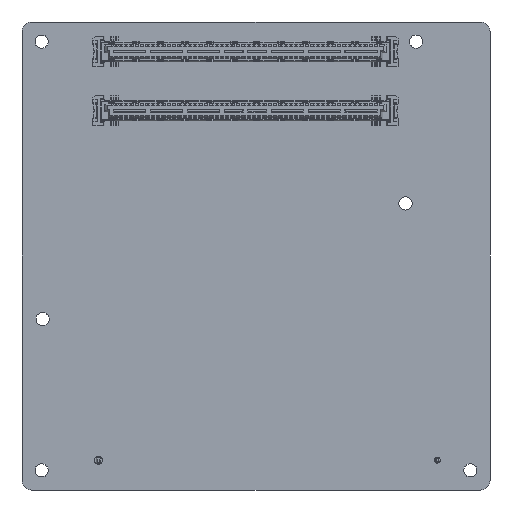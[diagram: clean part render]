
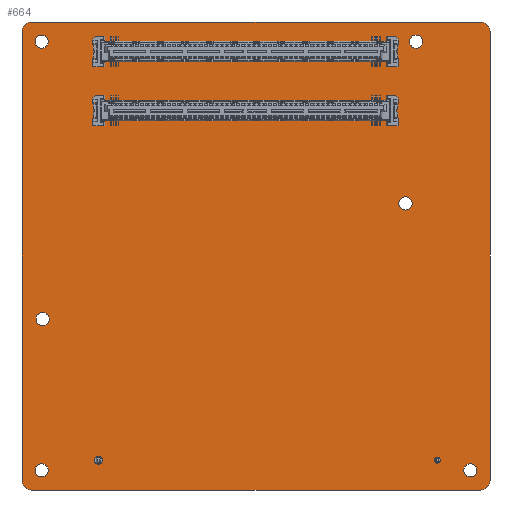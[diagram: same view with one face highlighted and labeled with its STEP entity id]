
A CAD part, front view. The second image highlights one B-rep face of the part: STEP entity #664.
In plain terms, the highlighted planar face has unit normal (0, -1, 0).
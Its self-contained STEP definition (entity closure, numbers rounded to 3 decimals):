
#1=CARTESIAN_POINT('',(-93.,0.,-2.));
#2=DIRECTION('',(0.,1.,0.));
#3=DIRECTION('',(-1.,0.,0.));
#4=AXIS2_PLACEMENT_3D('',#1,#2,#3);
#6=CARTESIAN_POINT('',(-2.,0.,-2.));
#7=DIRECTION('',(0.,1.,0.));
#8=DIRECTION('',(0.,0.,1.));
#9=AXIS2_PLACEMENT_3D('',#6,#7,#8);
#11=CARTESIAN_POINT('',(-2.,0.,-93.));
#12=DIRECTION('',(0.,1.,0.));
#13=DIRECTION('',(1.,0.,0.));
#14=AXIS2_PLACEMENT_3D('',#11,#12,#13);
#16=CARTESIAN_POINT('',(-93.,0.,-93.));
#17=DIRECTION('',(0.,1.,0.));
#18=DIRECTION('',(0.,0.,-1.));
#19=AXIS2_PLACEMENT_3D('',#16,#17,#18);
#21=CARTESIAN_POINT('',(-91.,0.,-91.));
#22=DIRECTION('',(0.,-1.,0.));
#23=DIRECTION('',(1.,0.,0.));
#24=AXIS2_PLACEMENT_3D('',#21,#22,#23);
#26=CARTESIAN_POINT('',(-91.,0.,-91.));
#27=DIRECTION('',(0.,-1.,0.));
#28=DIRECTION('',(-1.,0.,0.));
#29=AXIS2_PLACEMENT_3D('',#26,#27,#28);
#31=CARTESIAN_POINT('',(-4.,0.,-91.));
#32=DIRECTION('',(0.,-1.,0.));
#33=DIRECTION('',(1.,0.,0.));
#34=AXIS2_PLACEMENT_3D('',#31,#32,#33);
#36=CARTESIAN_POINT('',(-4.,0.,-91.));
#37=DIRECTION('',(0.,-1.,0.));
#38=DIRECTION('',(-1.,0.,0.));
#39=AXIS2_PLACEMENT_3D('',#36,#37,#38);
#41=CARTESIAN_POINT('',(-15.,0.,-4.));
#42=DIRECTION('',(0.,-1.,0.));
#43=DIRECTION('',(1.,0.,0.));
#44=AXIS2_PLACEMENT_3D('',#41,#42,#43);
#46=CARTESIAN_POINT('',(-15.,0.,-4.));
#47=DIRECTION('',(0.,-1.,0.));
#48=DIRECTION('',(-1.,0.,0.));
#49=AXIS2_PLACEMENT_3D('',#46,#47,#48);
#51=CARTESIAN_POINT('',(-91.,0.,-4.));
#52=DIRECTION('',(0.,-1.,0.));
#53=DIRECTION('',(1.,0.,0.));
#54=AXIS2_PLACEMENT_3D('',#51,#52,#53);
#56=CARTESIAN_POINT('',(-91.,0.,-4.));
#57=DIRECTION('',(0.,-1.,0.));
#58=DIRECTION('',(-1.,0.,0.));
#59=AXIS2_PLACEMENT_3D('',#56,#57,#58);
#61=CARTESIAN_POINT('',(-78.5,0.,-6.));
#62=DIRECTION('',(0.,-1.,0.));
#63=DIRECTION('',(-1.,0.,0.));
#64=AXIS2_PLACEMENT_3D('',#61,#62,#63);
#66=CARTESIAN_POINT('',(-78.5,0.,-6.));
#67=DIRECTION('',(0.,-1.,0.));
#68=DIRECTION('',(1.,0.,0.));
#69=AXIS2_PLACEMENT_3D('',#66,#67,#68);
#71=CARTESIAN_POINT('',(-20.8,0.,-6.));
#72=DIRECTION('',(0.,-1.,0.));
#73=DIRECTION('',(-1.,0.,0.));
#74=AXIS2_PLACEMENT_3D('',#71,#72,#73);
#76=CARTESIAN_POINT('',(-20.8,0.,-6.));
#77=DIRECTION('',(0.,-1.,0.));
#78=DIRECTION('',(1.,0.,0.));
#79=AXIS2_PLACEMENT_3D('',#76,#77,#78);
#81=CARTESIAN_POINT('',(-78.5,0.,-18.));
#82=DIRECTION('',(0.,-1.,0.));
#83=DIRECTION('',(-1.,0.,0.));
#84=AXIS2_PLACEMENT_3D('',#81,#82,#83);
#86=CARTESIAN_POINT('',(-78.5,0.,-18.));
#87=DIRECTION('',(0.,-1.,0.));
#88=DIRECTION('',(1.,0.,0.));
#89=AXIS2_PLACEMENT_3D('',#86,#87,#88);
#91=CARTESIAN_POINT('',(-20.8,0.,-18.));
#92=DIRECTION('',(0.,-1.,0.));
#93=DIRECTION('',(-1.,0.,0.));
#94=AXIS2_PLACEMENT_3D('',#91,#92,#93);
#96=CARTESIAN_POINT('',(-20.8,0.,-18.));
#97=DIRECTION('',(0.,-1.,0.));
#98=DIRECTION('',(1.,0.,0.));
#99=AXIS2_PLACEMENT_3D('',#96,#97,#98);
#101=CARTESIAN_POINT('',(-90.8,0.,-60.325));
#102=DIRECTION('',(0.,-1.,0.));
#103=DIRECTION('',(1.,0.,0.));
#104=AXIS2_PLACEMENT_3D('',#101,#102,#103);
#106=CARTESIAN_POINT('',(-90.8,0.,-60.325));
#107=DIRECTION('',(0.,-1.,0.));
#108=DIRECTION('',(-1.,0.,0.));
#109=AXIS2_PLACEMENT_3D('',#106,#107,#108);
#111=CARTESIAN_POINT('',(-17.144,0.,-36.829));
#112=DIRECTION('',(0.,-1.,0.));
#113=DIRECTION('',(-1.,0.,0.));
#114=AXIS2_PLACEMENT_3D('',#111,#112,#113);
#116=CARTESIAN_POINT('',(-17.144,0.,-36.829));
#117=DIRECTION('',(0.,-1.,0.));
#118=DIRECTION('',(1.,0.,0.));
#119=AXIS2_PLACEMENT_3D('',#116,#117,#118);
#121=CARTESIAN_POINT('',(-79.485,0.,-88.935));
#122=DIRECTION('',(0.,-1.,0.));
#123=DIRECTION('',(-1.,0.,0.));
#124=AXIS2_PLACEMENT_3D('',#121,#122,#123);
#126=CARTESIAN_POINT('',(-79.485,0.,-88.935));
#127=DIRECTION('',(0.,-1.,0.));
#128=DIRECTION('',(1.,0.,0.));
#129=AXIS2_PLACEMENT_3D('',#126,#127,#128);
#131=CARTESIAN_POINT('',(-10.685,0.,-88.935));
#132=DIRECTION('',(0.,-1.,0.));
#133=DIRECTION('',(-1.,0.,0.));
#134=AXIS2_PLACEMENT_3D('',#131,#132,#133);
#136=CARTESIAN_POINT('',(-10.685,0.,-88.935));
#137=DIRECTION('',(0.,-1.,0.));
#138=DIRECTION('',(1.,0.,0.));
#139=AXIS2_PLACEMENT_3D('',#136,#137,#138);
#149=DIRECTION('',(0.,0.,-1.));
#150=VECTOR('',#149,91.);
#151=CARTESIAN_POINT('',(-95.,0.,-2.));
#152=LINE('',#151,#150);
#161=DIRECTION('',(1.,0.,0.));
#162=VECTOR('',#161,91.);
#163=CARTESIAN_POINT('',(-93.,0.,-95.));
#164=LINE('',#163,#162);
#173=DIRECTION('',(0.,0.,1.));
#174=VECTOR('',#173,91.);
#175=CARTESIAN_POINT('',(0.,0.,-93.));
#176=LINE('',#175,#174);
#185=DIRECTION('',(-1.,0.,0.));
#186=VECTOR('',#185,91.);
#187=CARTESIAN_POINT('',(-2.,0.,0.));
#188=LINE('',#187,#186);
#441=CARTESIAN_POINT('',(-95.,0.,-2.));
#442=CARTESIAN_POINT('',(-93.,0.,0.));
#443=VERTEX_POINT('',#441);
#444=VERTEX_POINT('',#442);
#445=CARTESIAN_POINT('',(-2.,0.,0.));
#446=VERTEX_POINT('',#445);
#447=CARTESIAN_POINT('',(0.,0.,-2.));
#448=VERTEX_POINT('',#447);
#449=CARTESIAN_POINT('',(0.,0.,-93.));
#450=VERTEX_POINT('',#449);
#451=CARTESIAN_POINT('',(-2.,0.,-95.));
#452=VERTEX_POINT('',#451);
#453=CARTESIAN_POINT('',(-93.,0.,-95.));
#454=VERTEX_POINT('',#453);
#455=CARTESIAN_POINT('',(-95.,0.,-93.));
#456=VERTEX_POINT('',#455);
#457=CARTESIAN_POINT('',(-89.65,0.,-91.));
#458=CARTESIAN_POINT('',(-92.35,0.,-91.));
#459=VERTEX_POINT('',#457);
#460=VERTEX_POINT('',#458);
#461=CARTESIAN_POINT('',(-2.65,0.,-91.));
#462=CARTESIAN_POINT('',(-5.35,0.,-91.));
#463=VERTEX_POINT('',#461);
#464=VERTEX_POINT('',#462);
#465=CARTESIAN_POINT('',(-13.65,0.,-4.));
#466=CARTESIAN_POINT('',(-16.35,0.,-4.));
#467=VERTEX_POINT('',#465);
#468=VERTEX_POINT('',#466);
#469=CARTESIAN_POINT('',(-89.65,0.,-4.));
#470=CARTESIAN_POINT('',(-92.35,0.,-4.));
#471=VERTEX_POINT('',#469);
#472=VERTEX_POINT('',#470);
#473=CARTESIAN_POINT('',(-78.95,0.,-6.));
#474=CARTESIAN_POINT('',(-78.05,0.,-6.));
#475=VERTEX_POINT('',#473);
#476=VERTEX_POINT('',#474);
#477=CARTESIAN_POINT('',(-21.6,0.,-6.));
#478=CARTESIAN_POINT('',(-20.,0.,-6.));
#479=VERTEX_POINT('',#477);
#480=VERTEX_POINT('',#478);
#481=CARTESIAN_POINT('',(-78.95,0.,-18.));
#482=CARTESIAN_POINT('',(-78.05,0.,-18.));
#483=VERTEX_POINT('',#481);
#484=VERTEX_POINT('',#482);
#485=CARTESIAN_POINT('',(-21.6,0.,-18.));
#486=CARTESIAN_POINT('',(-20.,0.,-18.));
#487=VERTEX_POINT('',#485);
#488=VERTEX_POINT('',#486);
#489=CARTESIAN_POINT('',(-89.45,0.,-60.325));
#490=CARTESIAN_POINT('',(-92.15,0.,-60.325));
#491=VERTEX_POINT('',#489);
#492=VERTEX_POINT('',#490);
#493=CARTESIAN_POINT('',(-18.494,0.,-36.829));
#494=CARTESIAN_POINT('',(-15.794,0.,-36.829));
#495=VERTEX_POINT('',#493);
#496=VERTEX_POINT('',#494);
#497=CARTESIAN_POINT('',(-80.31,0.,-88.935));
#498=CARTESIAN_POINT('',(-78.659,0.,-88.935));
#499=VERTEX_POINT('',#497);
#500=VERTEX_POINT('',#498);
#501=CARTESIAN_POINT('',(-11.282,0.,-88.935));
#502=CARTESIAN_POINT('',(-10.088,0.,-88.935));
#503=VERTEX_POINT('',#501);
#504=VERTEX_POINT('',#502);
#569=CARTESIAN_POINT('',(0.,0.,0.));
#570=DIRECTION('',(0.,1.,0.));
#571=DIRECTION('',(1.,0.,0.));
#572=AXIS2_PLACEMENT_3D('',#569,#570,#571);
#573=PLANE('',#572);
#575=ORIENTED_EDGE('',*,*,#574,.T.);
#577=ORIENTED_EDGE('',*,*,#576,.F.);
#579=ORIENTED_EDGE('',*,*,#578,.T.);
#581=ORIENTED_EDGE('',*,*,#580,.F.);
#583=ORIENTED_EDGE('',*,*,#582,.T.);
#585=ORIENTED_EDGE('',*,*,#584,.F.);
#587=ORIENTED_EDGE('',*,*,#586,.T.);
#589=ORIENTED_EDGE('',*,*,#588,.F.);
#590=EDGE_LOOP('',(#575,#577,#579,#581,#583,#585,#587,#589));
#591=FACE_OUTER_BOUND('',#590,.F.);
#593=ORIENTED_EDGE('',*,*,#592,.T.);
#595=ORIENTED_EDGE('',*,*,#594,.T.);
#596=EDGE_LOOP('',(#593,#595));
#597=FACE_BOUND('',#596,.F.);
#599=ORIENTED_EDGE('',*,*,#598,.T.);
#601=ORIENTED_EDGE('',*,*,#600,.T.);
#602=EDGE_LOOP('',(#599,#601));
#603=FACE_BOUND('',#602,.F.);
#605=ORIENTED_EDGE('',*,*,#604,.T.);
#607=ORIENTED_EDGE('',*,*,#606,.T.);
#608=EDGE_LOOP('',(#605,#607));
#609=FACE_BOUND('',#608,.F.);
#611=ORIENTED_EDGE('',*,*,#610,.T.);
#613=ORIENTED_EDGE('',*,*,#612,.T.);
#614=EDGE_LOOP('',(#611,#613));
#615=FACE_BOUND('',#614,.F.);
#617=ORIENTED_EDGE('',*,*,#616,.T.);
#619=ORIENTED_EDGE('',*,*,#618,.T.);
#620=EDGE_LOOP('',(#617,#619));
#621=FACE_BOUND('',#620,.F.);
#623=ORIENTED_EDGE('',*,*,#622,.T.);
#625=ORIENTED_EDGE('',*,*,#624,.T.);
#626=EDGE_LOOP('',(#623,#625));
#627=FACE_BOUND('',#626,.F.);
#629=ORIENTED_EDGE('',*,*,#628,.T.);
#631=ORIENTED_EDGE('',*,*,#630,.T.);
#632=EDGE_LOOP('',(#629,#631));
#633=FACE_BOUND('',#632,.F.);
#635=ORIENTED_EDGE('',*,*,#634,.T.);
#637=ORIENTED_EDGE('',*,*,#636,.T.);
#638=EDGE_LOOP('',(#635,#637));
#639=FACE_BOUND('',#638,.F.);
#641=ORIENTED_EDGE('',*,*,#640,.T.);
#643=ORIENTED_EDGE('',*,*,#642,.T.);
#644=EDGE_LOOP('',(#641,#643));
#645=FACE_BOUND('',#644,.F.);
#647=ORIENTED_EDGE('',*,*,#646,.T.);
#649=ORIENTED_EDGE('',*,*,#648,.T.);
#650=EDGE_LOOP('',(#647,#649));
#651=FACE_BOUND('',#650,.F.);
#653=ORIENTED_EDGE('',*,*,#652,.T.);
#655=ORIENTED_EDGE('',*,*,#654,.T.);
#656=EDGE_LOOP('',(#653,#655));
#657=FACE_BOUND('',#656,.F.);
#659=ORIENTED_EDGE('',*,*,#658,.T.);
#661=ORIENTED_EDGE('',*,*,#660,.T.);
#662=EDGE_LOOP('',(#659,#661));
#663=FACE_BOUND('',#662,.F.);
#664=ADVANCED_FACE('',(#591,#597,#603,#609,#615,#621,#627,#633,#639,#645,#651,
#657,#663),#573,.F.);
#5=CIRCLE('',#4,2.);
#10=CIRCLE('',#9,2.);
#15=CIRCLE('',#14,2.);
#20=CIRCLE('',#19,2.);
#25=CIRCLE('',#24,1.35);
#30=CIRCLE('',#29,1.35);
#35=CIRCLE('',#34,1.35);
#40=CIRCLE('',#39,1.35);
#45=CIRCLE('',#44,1.35);
#50=CIRCLE('',#49,1.35);
#55=CIRCLE('',#54,1.35);
#60=CIRCLE('',#59,1.35);
#65=CIRCLE('',#64,0.45);
#70=CIRCLE('',#69,0.45);
#75=CIRCLE('',#74,0.8);
#80=CIRCLE('',#79,0.8);
#85=CIRCLE('',#84,0.45);
#90=CIRCLE('',#89,0.45);
#95=CIRCLE('',#94,0.8);
#100=CIRCLE('',#99,0.8);
#105=CIRCLE('',#104,1.35);
#110=CIRCLE('',#109,1.35);
#115=CIRCLE('',#114,1.35);
#120=CIRCLE('',#119,1.35);
#125=CIRCLE('',#124,0.826);
#130=CIRCLE('',#129,0.826);
#135=CIRCLE('',#134,0.597);
#140=CIRCLE('',#139,0.597);
#574=EDGE_CURVE('',#443,#444,#5,.T.);
#576=EDGE_CURVE('',#446,#444,#188,.T.);
#578=EDGE_CURVE('',#446,#448,#10,.T.);
#580=EDGE_CURVE('',#450,#448,#176,.T.);
#582=EDGE_CURVE('',#450,#452,#15,.T.);
#584=EDGE_CURVE('',#454,#452,#164,.T.);
#586=EDGE_CURVE('',#454,#456,#20,.T.);
#588=EDGE_CURVE('',#443,#456,#152,.T.);
#592=EDGE_CURVE('',#459,#460,#25,.T.);
#594=EDGE_CURVE('',#460,#459,#30,.T.);
#598=EDGE_CURVE('',#463,#464,#35,.T.);
#600=EDGE_CURVE('',#464,#463,#40,.T.);
#604=EDGE_CURVE('',#467,#468,#45,.T.);
#606=EDGE_CURVE('',#468,#467,#50,.T.);
#610=EDGE_CURVE('',#471,#472,#55,.T.);
#612=EDGE_CURVE('',#472,#471,#60,.T.);
#616=EDGE_CURVE('',#475,#476,#65,.T.);
#618=EDGE_CURVE('',#476,#475,#70,.T.);
#622=EDGE_CURVE('',#479,#480,#75,.T.);
#624=EDGE_CURVE('',#480,#479,#80,.T.);
#628=EDGE_CURVE('',#483,#484,#85,.T.);
#630=EDGE_CURVE('',#484,#483,#90,.T.);
#634=EDGE_CURVE('',#487,#488,#95,.T.);
#636=EDGE_CURVE('',#488,#487,#100,.T.);
#640=EDGE_CURVE('',#491,#492,#105,.T.);
#642=EDGE_CURVE('',#492,#491,#110,.T.);
#646=EDGE_CURVE('',#495,#496,#115,.T.);
#648=EDGE_CURVE('',#496,#495,#120,.T.);
#652=EDGE_CURVE('',#499,#500,#125,.T.);
#654=EDGE_CURVE('',#500,#499,#130,.T.);
#658=EDGE_CURVE('',#503,#504,#135,.T.);
#660=EDGE_CURVE('',#504,#503,#140,.T.);
